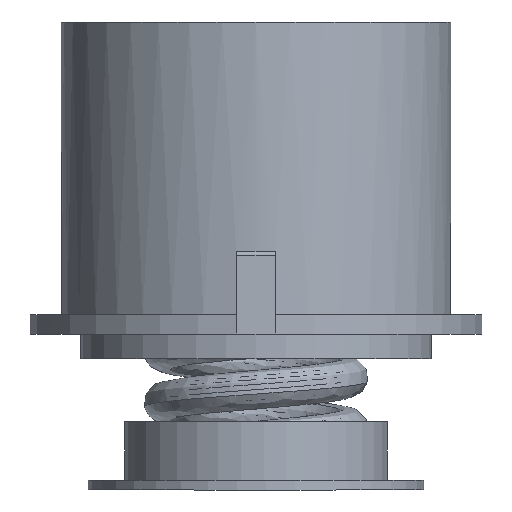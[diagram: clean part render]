
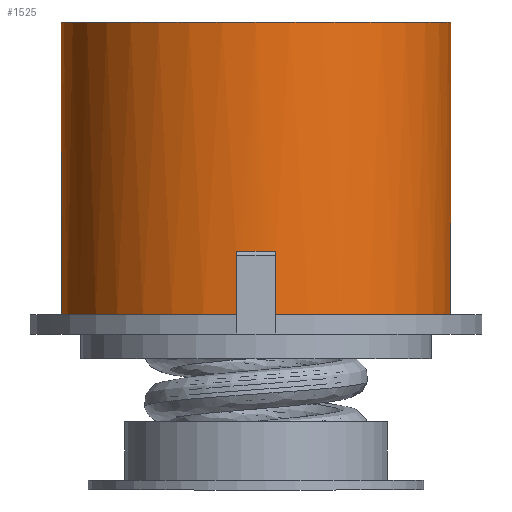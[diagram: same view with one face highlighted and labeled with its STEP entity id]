
A CAD part, left-side view. The second image highlights one B-rep face of the part: STEP entity #1525.
In plain terms, the highlighted cylindrical face has radius 63.5 mm (diameter 127 mm), a full revolution.
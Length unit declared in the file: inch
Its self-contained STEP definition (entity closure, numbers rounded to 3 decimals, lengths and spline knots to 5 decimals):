
#151=FACE_BOUND('',#360,.T.);
#259=FACE_OUTER_BOUND('',#359,.T.);
#359=EDGE_LOOP('',(#1162,#1163,#1164,#1165,#1166,#1167,#1168,#1169,#1170,
#1171));
#360=EDGE_LOOP('',(#1172));
#475=CIRCLE('',#1622,2.5);
#476=CIRCLE('',#1624,2.5);
#481=CIRCLE('',#1635,2.5);
#482=CIRCLE('',#1637,2.5);
#488=CIRCLE('',#1650,2.5);
#489=CIRCLE('',#1652,2.5);
#490=CIRCLE('',#1653,2.5);
#538=LINE('',#2152,#626);
#548=LINE('',#2184,#636);
#555=LINE('',#2199,#643);
#568=LINE('',#2237,#656);
#626=VECTOR('',#1774,0.75);
#636=VECTOR('',#1802,0.75);
#643=VECTOR('',#1817,0.75);
#656=VECTOR('',#1854,0.75);
#717=VERTEX_POINT('',#2149);
#718=VERTEX_POINT('',#2151);
#723=VERTEX_POINT('',#2163);
#724=VERTEX_POINT('',#2164);
#731=VERTEX_POINT('',#2183);
#734=VERTEX_POINT('',#2196);
#735=VERTEX_POINT('',#2198);
#740=VERTEX_POINT('',#2210);
#741=VERTEX_POINT('',#2211);
#748=VERTEX_POINT('',#2236);
#749=VERTEX_POINT('',#2248);
#866=EDGE_CURVE('',#718,#717,#538,.T.);
#872=EDGE_CURVE('',#723,#724,#475,.T.);
#875=EDGE_CURVE('',#724,#718,#476,.T.);
#882=EDGE_CURVE('',#731,#723,#548,.T.);
#889=EDGE_CURVE('',#735,#734,#555,.T.);
#895=EDGE_CURVE('',#740,#741,#481,.T.);
#898=EDGE_CURVE('',#741,#735,#482,.T.);
#908=EDGE_CURVE('',#748,#740,#568,.T.);
#913=EDGE_CURVE('',#734,#731,#488,.T.);
#914=EDGE_CURVE('',#717,#748,#489,.T.);
#915=EDGE_CURVE('',#749,#749,#490,.T.);
#1162=ORIENTED_EDGE('',*,*,#866,.T.);
#1163=ORIENTED_EDGE('',*,*,#914,.T.);
#1164=ORIENTED_EDGE('',*,*,#908,.T.);
#1165=ORIENTED_EDGE('',*,*,#895,.T.);
#1166=ORIENTED_EDGE('',*,*,#898,.T.);
#1167=ORIENTED_EDGE('',*,*,#889,.T.);
#1168=ORIENTED_EDGE('',*,*,#913,.T.);
#1169=ORIENTED_EDGE('',*,*,#882,.T.);
#1170=ORIENTED_EDGE('',*,*,#872,.T.);
#1171=ORIENTED_EDGE('',*,*,#875,.T.);
#1172=ORIENTED_EDGE('',*,*,#915,.F.);
#1485=CYLINDRICAL_SURFACE('',#1651,2.5);
#1525=ADVANCED_FACE('',(#259,#151),#1485,.T.);
#1622=AXIS2_PLACEMENT_3D('',#2165,#1784,#1785);
#1624=AXIS2_PLACEMENT_3D('',#2170,#1790,#1791);
#1635=AXIS2_PLACEMENT_3D('',#2212,#1827,#1828);
#1637=AXIS2_PLACEMENT_3D('',#2217,#1833,#1834);
#1650=AXIS2_PLACEMENT_3D('',#2245,#1868,#1869);
#1651=AXIS2_PLACEMENT_3D('',#2246,#1870,#1871);
#1652=AXIS2_PLACEMENT_3D('',#2247,#1872,#1873);
#1653=AXIS2_PLACEMENT_3D('',#2249,#1874,#1875);
#1774=DIRECTION('',(0.,0.,-1.));
#1784=DIRECTION('center_axis',(0.,0.,
1.));
#1785=DIRECTION('ref_axis',(1.,0.,0.));
#1790=DIRECTION('center_axis',(0.,0.,
1.));
#1791=DIRECTION('ref_axis',(1.,0.,0.));
#1802=DIRECTION('',(0.,0.,1.));
#1817=DIRECTION('',(0.,0.,-1.));
#1827=DIRECTION('center_axis',(0.,0.,
1.));
#1828=DIRECTION('ref_axis',(1.,0.,0.));
#1833=DIRECTION('center_axis',(0.,0.,
1.));
#1834=DIRECTION('ref_axis',(1.,0.,0.));
#1854=DIRECTION('',(0.,0.,1.));
#1868=DIRECTION('center_axis',(0.,0.,
1.));
#1869=DIRECTION('ref_axis',(1.,0.,0.));
#1870=DIRECTION('center_axis',(0.,0.,
-1.));
#1871=DIRECTION('ref_axis',(1.,0.,0.));
#1872=DIRECTION('center_axis',(0.,0.,
1.));
#1873=DIRECTION('ref_axis',(1.,0.,0.));
#1874=DIRECTION('center_axis',(0.,0.,
1.));
#1875=DIRECTION('ref_axis',(1.,0.,0.));
#2149=CARTESIAN_POINT('',(2.48747,0.25,2.25));
#2151=CARTESIAN_POINT('',(2.48747,0.25,3.));
#2152=CARTESIAN_POINT('',(2.48747,0.25,6.));
#2163=CARTESIAN_POINT('',(2.48747,-0.25,3.));
#2164=CARTESIAN_POINT('',(2.5,0.,3.));
#2165=CARTESIAN_POINT('Origin',(0.,0.,
3.));
#2170=CARTESIAN_POINT('Origin',(0.,0.,
3.));
#2183=CARTESIAN_POINT('',(2.48747,-0.25,2.25));
#2184=CARTESIAN_POINT('',(2.48747,-0.25,6.));
#2196=CARTESIAN_POINT('',(-2.48747,-0.25,2.25));
#2198=CARTESIAN_POINT('',(-2.48747,-0.25,3.));
#2199=CARTESIAN_POINT('',(-2.48747,-0.25,6.));
#2210=CARTESIAN_POINT('',(-2.48747,0.25,3.));
#2211=CARTESIAN_POINT('',(-2.5,0.,3.));
#2212=CARTESIAN_POINT('Origin',(0.,0.,
3.));
#2217=CARTESIAN_POINT('Origin',(0.,0.,
3.));
#2236=CARTESIAN_POINT('',(-2.48747,0.25,2.25));
#2237=CARTESIAN_POINT('',(-2.48747,0.25,6.));
#2245=CARTESIAN_POINT('Origin',(0.,0.,
2.25));
#2246=CARTESIAN_POINT('Origin',(0.,0.,
6.));
#2247=CARTESIAN_POINT('Origin',(0.,0.,
2.25));
#2248=CARTESIAN_POINT('',(-2.5,0.,6.));
#2249=CARTESIAN_POINT('Origin',(0.,0.,
6.));
